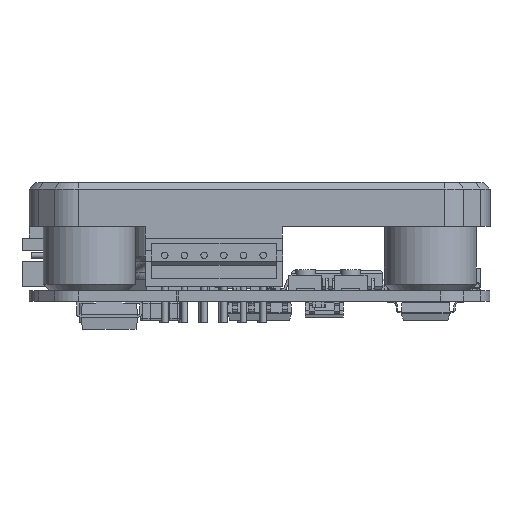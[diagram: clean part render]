
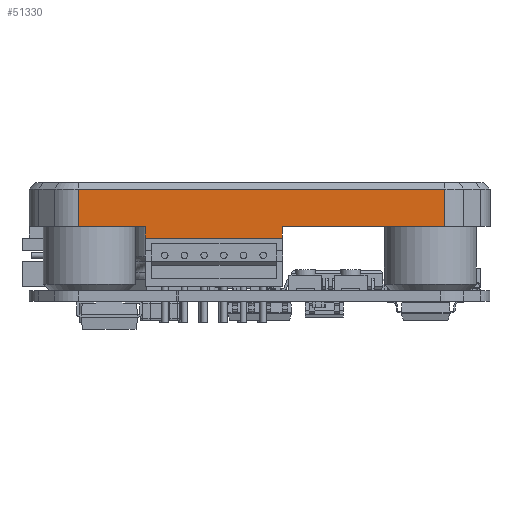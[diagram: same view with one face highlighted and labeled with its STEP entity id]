
A CAD part, left-side view. The second image highlights one B-rep face of the part: STEP entity #51330.
In plain terms, the highlighted planar face has unit normal (-1, 0, 0).
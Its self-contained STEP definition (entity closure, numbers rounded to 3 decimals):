
#7560=FACE_OUTER_BOUND('',#10521,.T.);
#10521=EDGE_LOOP('',(#46554,#46555,#46556,#46557,#46558,#46559,#46560,#46561));
#15780=LINE('',#89851,#21078);
#15797=LINE('',#89892,#21095);
#15804=LINE('',#89916,#21102);
#15812=LINE('',#89933,#21110);
#15813=LINE('',#89935,#21111);
#15814=LINE('',#89937,#21112);
#15815=LINE('',#89939,#21113);
#15816=LINE('',#89940,#21114);
#21078=VECTOR('',#69810,10.);
#21095=VECTOR('',#69849,10.);
#21102=VECTOR('',#69876,2.536);
#21110=VECTOR('',#69892,10.);
#21111=VECTOR('',#69893,10.);
#21112=VECTOR('',#69894,10.);
#21113=VECTOR('',#69895,10.);
#21114=VECTOR('',#69896,10.);
#25577=VERTEX_POINT('',#89768);
#25592=VERTEX_POINT('',#89847);
#25605=VERTEX_POINT('',#89891);
#25612=VERTEX_POINT('',#89914);
#25617=VERTEX_POINT('',#89932);
#25618=VERTEX_POINT('',#89934);
#25619=VERTEX_POINT('',#89936);
#25620=VERTEX_POINT('',#89938);
#32581=EDGE_CURVE('',#25592,#25577,#15780,.T.);
#32601=EDGE_CURVE('',#25605,#25577,#15797,.T.);
#32613=EDGE_CURVE('',#25592,#25612,#15804,.T.);
#32621=EDGE_CURVE('',#25617,#25612,#15812,.T.);
#32622=EDGE_CURVE('',#25617,#25618,#15813,.T.);
#32623=EDGE_CURVE('',#25619,#25618,#15814,.T.);
#32624=EDGE_CURVE('',#25620,#25619,#15815,.T.);
#32625=EDGE_CURVE('',#25605,#25620,#15816,.T.);
#46554=ORIENTED_EDGE('',*,*,#32581,.F.);
#46555=ORIENTED_EDGE('',*,*,#32613,.T.);
#46556=ORIENTED_EDGE('',*,*,#32621,.F.);
#46557=ORIENTED_EDGE('',*,*,#32622,.T.);
#46558=ORIENTED_EDGE('',*,*,#32623,.F.);
#46559=ORIENTED_EDGE('',*,*,#32624,.F.);
#46560=ORIENTED_EDGE('',*,*,#32625,.F.);
#46561=ORIENTED_EDGE('',*,*,#32601,.T.);
#48552=PLANE('',#56212);
#51330=ADVANCED_FACE('',(#7560),#48552,.T.);
#56212=AXIS2_PLACEMENT_3D('',#89931,#69890,#69891);
#69810=DIRECTION('',(0.,-1.,0.));
#69849=DIRECTION('',(0.,0.,1.));
#69876=DIRECTION('',(0.,0.,-1.));
#69890=DIRECTION('center_axis',(-1.,0.,0.));
#69891=DIRECTION('ref_axis',(0.,1.,0.));
#69892=DIRECTION('',(0.,1.,0.));
#69893=DIRECTION('',(0.,0.,-1.));
#69894=DIRECTION('',(0.,1.,0.));
#69895=DIRECTION('',(0.,0.,-1.));
#69896=DIRECTION('',(0.,1.,0.));
#89768=CARTESIAN_POINT('',(-4.47,-1.111,7.75));
#89847=CARTESIAN_POINT('',(-4.47,26.837,7.75));
#89851=CARTESIAN_POINT('',(-4.47,16.173,7.75));
#89891=CARTESIAN_POINT('',(-4.47,-1.111,4.9));
#89892=CARTESIAN_POINT('',(-4.47,-1.111,7.9));
#89914=CARTESIAN_POINT('',(-4.47,26.837,4.9));
#89916=CARTESIAN_POINT('',(-4.47,26.837,7.9));
#89931=CARTESIAN_POINT('Origin',(-4.47,19.329,7.9));
#89932=CARTESIAN_POINT('',(-4.47,21.739,4.9));
#89933=CARTESIAN_POINT('',(-4.47,16.173,4.9));
#89934=CARTESIAN_POINT('',(-4.47,21.739,4.));
#89935=CARTESIAN_POINT('',(-4.47,21.739,4.9));
#89936=CARTESIAN_POINT('',(-4.47,11.296,4.));
#89937=CARTESIAN_POINT('',(-4.47,11.296,4.));
#89938=CARTESIAN_POINT('',(-4.47,11.296,4.9));
#89939=CARTESIAN_POINT('',(-4.47,11.296,4.9));
#89940=CARTESIAN_POINT('',(-4.47,16.173,4.9));
